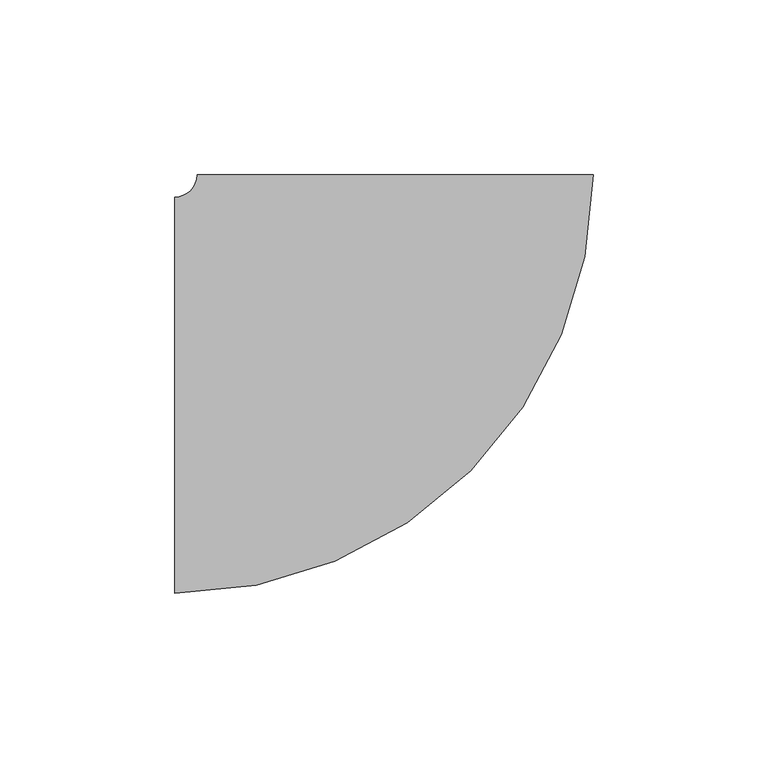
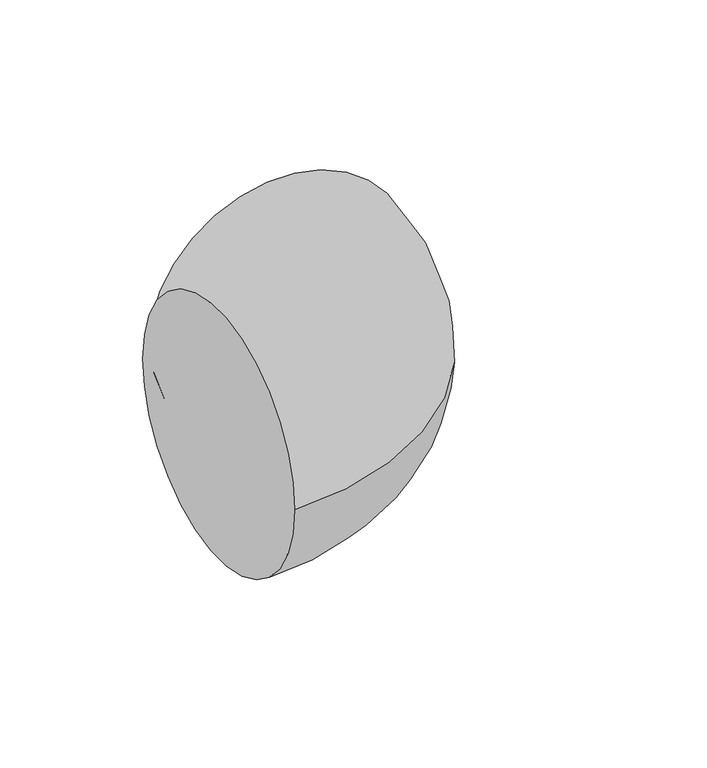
"""IFC4 building model written with IfcOpenShell, lengths in millimetres: pipe fitting geometry, M_Codo - Genérico : Estándar."""

from ifc_helpers import new_model, si_unit, point, frame, origin, place, context, project, spatial, circle_curve, ellipse_curve, trimmed, source, transform, mapped, element, save
from ifc_brep_helpers import plane_surface, revolved_surface, advanced_brep


def pipe_fitting_83247f38(model_context):
    return source(origin(), model_context, "Body", "AdvancedBrep", [
        advanced_brep(
        [(-62.9363315, -56.5875, 0.0), (-62.9363315, 56.5875, 0.0), (56.5886685, 62.9352809, 0.0), (-56.5863315, 62.9373821, 0.0)],
        [
            (0, 1, circle_curve(frame((-62.9363315, 0.0, 0.0), z_axis=(-1.0, 0.0, 0.0), x_axis=(0.0, 1.0, 0.0)), 56.5875)),
            (1, 0, circle_curve(frame((-62.9363315, 0.0, 0.0), z_axis=(-1.0, 0.0, 0.0), x_axis=(0.0, 1.0, 0.0)), 56.5875)),
            (2, 3, circle_curve(frame((0.0011685, 62.9363315, 0.0), z_axis=(1.8566224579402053e-05, 0.9999999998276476, 0.0), x_axis=(-0.9999999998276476, 1.8566224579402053e-05, 0.0)), 56.5875)),
            (3, 2, circle_curve(frame((0.0011685, 62.9363315, 0.0), z_axis=(1.8566224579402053e-05, 0.9999999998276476, 0.0), x_axis=(-0.9999999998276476, 1.8566224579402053e-05, 0.0)), 56.5875)),
            (3, 1, circle_curve(frame((-62.9363315, 62.9375, 0.0), z_axis=(0.0, 0.0, -1.0), x_axis=(0.0, -1.0, 0.0)), 6.35)),
            (0, 2, circle_curve(frame((-62.9363315, 62.9375, 0.0), z_axis=(0.0, 0.0, 1.0), x_axis=(0.0, -1.0, 0.0)), 119.525)),
        ],
        [
            plane_surface(frame((-62.9363315, 0.0, 0.0), z_axis=(-1.0, 0.0, 0.0), x_axis=(0.0, 0.0, 1.0))),
            plane_surface(frame((0.0011685, 62.9363315, 0.0), z_axis=(1.856622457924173e-05, 0.9999999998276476, 0.0), x_axis=(0.0, 0.0, 1.0))),
            revolved_surface(trimmed(ellipse_curve(frame((-62.9363315, 0.0, 0.0), z_axis=(-1.0, 0.0, 0.0), x_axis=(0.0, 1.0, 0.0)), 56.5875, 56.5875), [point((-62.9363315, -56.5875, 0.0))], [point((-62.9363315, 56.5875, 0.0))], True, "CARTESIAN"), (-62.9363315, 62.9375, 0.0), (0.0, 0.0, 1.0)),
            revolved_surface(trimmed(ellipse_curve(frame((-62.9363315, 0.0, 0.0), z_axis=(-1.0, 0.0, 0.0), x_axis=(0.0, 1.0, 0.0)), 56.5875, 56.5875), [point((-62.9363315, 56.5875, 0.0))], [point((-62.9363315, -56.5875, 0.0))], True, "CARTESIAN"), (-62.9363315, 62.9375, 0.0), (0.0, 0.0, 1.0)),
        ],
        [
            (0, [[1, 2]]),
            (1, [[3, 4]]),
            (2, [[5, -1, 6, -4]]),
            (3, [[-6, -2, -5, -3]]),
        ],
    ),
    ])


if __name__ == "__main__":
    model = new_model("IFC4")
    model_context = context("Model", 3, world=origin())
    ifc_project = project(units=[si_unit("LENGTHUNIT", "METRE", prefix="MILLI")], contexts=[model_context])
    site = spatial("IfcSite", under=ifc_project)
    building = spatial("IfcBuilding", under=site)
    placement = place(None, origin())
    pipe_fitting_shape = pipe_fitting_83247f38(model_context)
    element("IfcPipeFitting", 1, ObjectType="M_Codo - Genérico : Estándar", at=placement, inside=building, context=model_context, shape_type="MappedRepresentation", body=[
        mapped(pipe_fitting_shape, transform((0.0, 0.0, 0.0), x_axis=(1.0, 0.0, 0.0), y_axis=(0.0, 1.0, 0.0), z_axis=(0.0, 0.0, 1.0))),
    ])
    save(model, "model.ifc")
